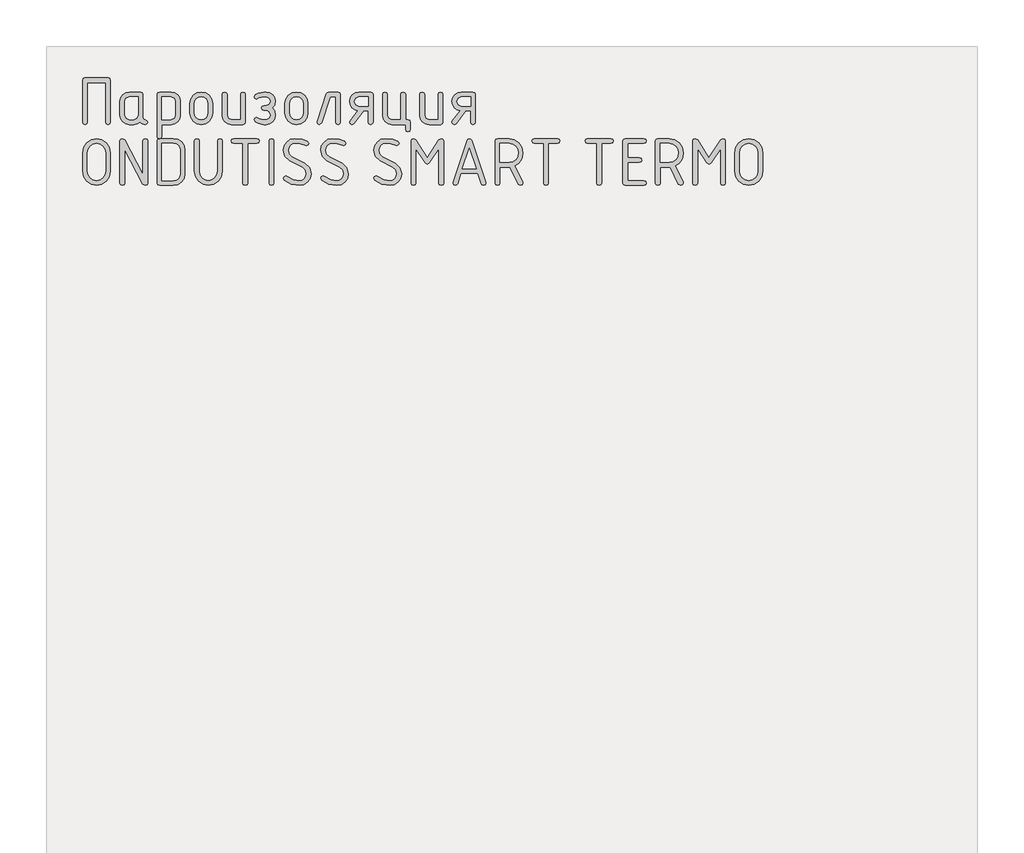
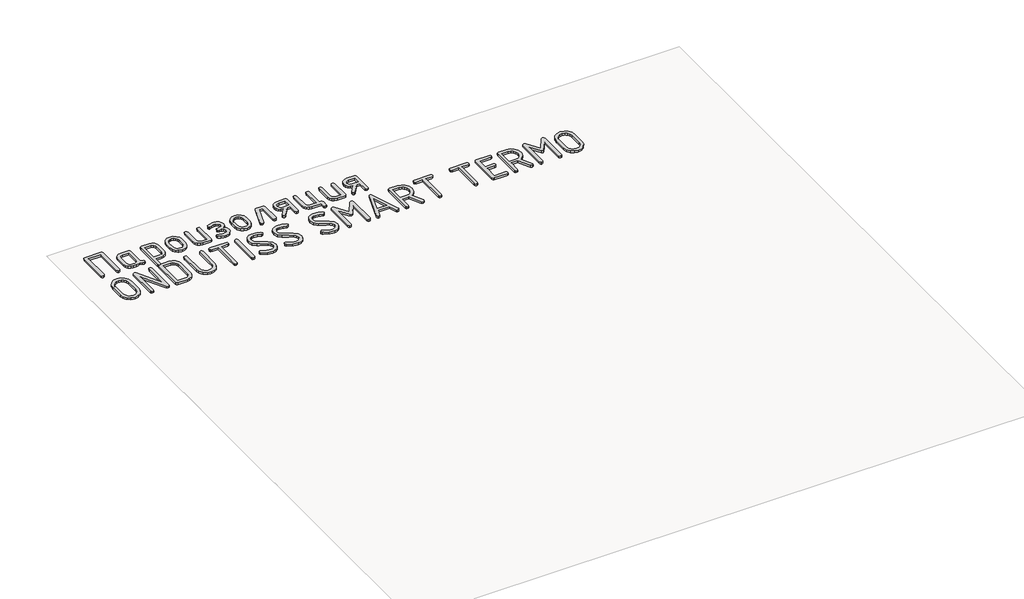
# One storey, part 28 of 42: 1 proxy.
"""IFC4 building model written with IfcOpenShell, lengths in millimetres."""

from ifc_helpers import new_model, si_unit, origin, origin_with_axes, place, context, project, spatial, polyline, outline, extrude, element, save

model = new_model("IFC4")

# Units and contexts
model_context = context("Model", 3, world=origin())
ifc_project = project(units=[si_unit("LENGTHUNIT", "METRE", prefix="MILLI")], contexts=[model_context])

# Site, building, storey
site = spatial("IfcSite", under=ifc_project)
building = spatial("IfcBuilding", under=site)
storey = spatial("IfcBuildingStorey", under=building, Name="Этаж 01", Elevation=0.0)

# Proxy
placement = place(None, origin())
element("IfcBuildingElementProxy", 1, Name="150 мм GOST Common", ObjectType="150 мм GOST Common", at=placement, inside=storey, context=model_context, shape_type="SweptSolid", body=[
    extrude(outline(polyline([(-10713.0545046, -30675.913887), (-10638.5048151, -30675.913887), (-10632.9016029, -30677.8016002), (-10631.0338655, -30683.4647398), (-10631.0338655, -30819.2202837), (-10632.9515424, -30824.8834233), (-10638.7045731, -30826.7711365), (-10644.4576038, -30824.8934112), (-10646.3752807, -30819.2602353), (-10646.3752807, -30691.2553022), (-10705.184039, -30691.2553022), (-10705.184039, -30819.2602353), (-10707.1017159, -30824.8934112), (-10712.8547466, -30826.7711365), (-10718.6077773, -30824.8834233), (-10720.5254542, -30819.2202837), (-10720.5254542, -30683.4647398), (-10718.6577168, -30677.8016002), (-10713.0545046, -30675.913887)])), origin_with_axes(), (0.0, 0.0, 1.0), 10.0),
    extrude(outline(polyline([(-10511.2190109, -30819.3001869), (-10513.0867483, -30824.9033991), (-10518.6899605, -30826.7711365), (-10528.1684781, -30824.7835443), (-10535.7492945, -30818.8207677), (-10544.8682477, -30824.7835443), (-10555.8449504, -30826.7711365), (-10570.7069464, -30826.7711365), (-10582.2030199, -30824.6037621), (-10591.7614407, -30818.1016388), (-10598.2036365, -30808.443339), (-10600.3510351, -30796.8074349), (-10600.3510351, -30751.9018342), (-10598.2036365, -30740.2659301), (-10591.7614407, -30730.6076303), (-10582.2030199, -30724.105507), (-10570.7069464, -30721.9381326), (-10533.6318596, -30721.9381326), (-10528.0586111, -30723.80587), (-10526.2008617, -30729.4090822), (-10526.2008617, -30804.3183361), (-10524.3281303, -30809.9215483), (-10518.7099363, -30811.7892857), (-10513.0917422, -30813.667011), (-10511.2190109, -30819.3001869)]), holes=[polyline([(-10541.5422768, -30737.2795478), (-10570.5071884, -30737.2795478), (-10580.7747501, -30741.6142966), (-10585.0096199, -30752.1015922), (-10585.0096199, -30796.6076769), (-10580.7347985, -30807.0550209), (-10570.5071884, -30811.4297213), (-10556.0447084, -30811.4297213), (-10545.7771467, -30807.0949725), (-10541.5422768, -30796.6076769), (-10541.5422768, -30737.2795478)])]), origin_with_axes(), (0.0, 0.0, 1.0), 10.0),
    extrude(outline(polyline([(-10480.1766161, -30729.4889854), (-10478.3188666, -30723.8258458), (-10472.7456181, -30721.9381326), (-10435.6705313, -30721.9381326), (-10424.1744578, -30724.105507), (-10414.6160371, -30730.6076303), (-10408.1738412, -30740.2659301), (-10406.0264426, -30751.9018342), (-10406.0264426, -30796.8074349), (-10408.1588594, -30808.3684298), (-10414.5561096, -30818.0417114), (-10424.0396212, -30824.5887802), (-10435.4308217, -30826.7711365), (-10464.8352009, -30826.7711365), (-10464.8352009, -30865.1246745), (-10466.7528778, -30870.8777052), (-10472.5059085, -30872.7953821), (-10478.2589392, -30870.9076689), (-10480.1766161, -30865.2445293), (-10480.1766161, -30729.4889854)]), holes=[polyline([(-10464.8352009, -30737.2795478), (-10464.8352009, -30811.4297213), (-10435.8702894, -30811.4297213), (-10425.6027276, -30807.0949725), (-10421.3678578, -30796.6076769), (-10421.3678578, -30752.1015922), (-10425.5428002, -30741.5543692), (-10435.8702894, -30737.2795478), (-10464.8352009, -30737.2795478)])]), origin_with_axes(), (0.0, 0.0, 1.0), 10.0),
    extrude(outline(polyline([(-10375.3436122, -30789.3364853), (-10375.3436122, -30759.3727838), (-10372.6318972, -30744.9802191), (-10364.4967522, -30732.8848716), (-10352.5162656, -30724.6748174), (-10338.2685255, -30721.9381326), (-10323.8709669, -30724.6448537), (-10311.9204439, -30732.7650168), (-10303.87519, -30744.8304006), (-10301.1934388, -30759.3727838), (-10301.1934388, -30789.3364853), (-10303.9051537, -30803.72905), (-10312.0402987, -30815.8243975), (-10324.0207854, -30824.0344517), (-10338.2685255, -30826.7711365), (-10352.5162656, -30824.0344517), (-10364.4967522, -30815.8243975), (-10372.6318972, -30803.72905), (-10375.3436122, -30789.3364853)]), holes=[polyline([(-10316.534854, -30788.8970177), (-10316.534854, -30758.8933645), (-10318.1279241, -30750.2638185), (-10322.9071345, -30742.9926269), (-10329.9336225, -30738.0486162), (-10338.2685255, -30736.4006126), (-10346.6034285, -30738.0486162), (-10353.6299165, -30742.9926269), (-10358.4091269, -30750.2638185), (-10360.002197, -30758.8933645), (-10360.002197, -30788.8970177), (-10358.4241087, -30797.606467), (-10353.6898439, -30804.8776585), (-10346.6783377, -30809.7917056), (-10338.2685255, -30811.4297213), (-10329.9336225, -30809.7817177), (-10322.9071345, -30804.8377069), (-10318.1279241, -30797.5565275), (-10316.534854, -30788.8970177)])]), origin_with_axes(), (0.0, 0.0, 1.0), 10.0),
    extrude(outline(polyline([(-10196.3604349, -30729.4090822), (-10196.3604349, -30819.3001869), (-10198.2181844, -30824.9033991), (-10203.7914329, -30826.7711365), (-10240.8665196, -30826.7711365), (-10252.3625931, -30824.6037621), (-10261.9210139, -30818.1016388), (-10268.3632097, -30808.443339), (-10270.5106084, -30796.8074349), (-10270.5106084, -30729.4090822), (-10268.5929315, -30723.80587), (-10262.8399008, -30721.9381326), (-10257.0868701, -30723.80587), (-10255.1691932, -30729.4090822), (-10255.1691932, -30796.5277737), (-10250.8943717, -30807.0150692), (-10240.6667616, -30811.4297213), (-10211.7018501, -30811.4297213), (-10211.7018501, -30729.4090822), (-10209.7841732, -30723.80587), (-10204.0311425, -30721.9381326), (-10198.2781118, -30723.80587), (-10196.3604349, -30729.4090822)])), origin_with_axes(), (0.0, 0.0, 1.0), 10.0),
    extrude(outline(polyline([(-10114.5395539, -30796.0483545), (-10118.5347141, -30784.7020995), (-10127.4039697, -30780.7468909), (-10137.0722574, -30780.7468909), (-10142.3858205, -30778.5495528), (-10144.543207, -30773.1161349), (-10142.3258931, -30767.6627412), (-10134.9148709, -30765.4054757), (-10132.6376296, -30765.4054757), (-10130.2405335, -30765.4054757), (-10118.5746657, -30761.3503881), (-10114.5395539, -30751.3425118), (-10118.8743027, -30741.3346354), (-10129.5613562, -30737.2795478), (-10137.0722574, -30737.2795478), (-10152.4536242, -30741.0949258), (-10161.3628315, -30744.9103038), (-10165.3579917, -30742.1736191), (-10167.0759106, -30736.9199834), (-10163.9996372, -30731.1769406), (-10154.7708171, -30726.013196), (-10137.0722574, -30721.9381326), (-10129.5613562, -30721.9381326), (-10117.8755126, -30724.0555675), (-10108.0673943, -30730.4078723), (-10101.4154526, -30739.8264625), (-10099.1981387, -30751.1427537), (-10101.8449323, -30764.4366493), (-10109.7853132, -30773.0761833), (-10101.8449323, -30782.2650518), (-10099.1981387, -30796.0883061), (-10101.4154526, -30807.9888895), (-10108.0673943, -30817.881905), (-10117.8755126, -30824.5488286), (-10129.5613562, -30826.7711365), (-10137.0722574, -30826.7711365), (-10154.8906719, -30822.8159279), (-10164.0296009, -30817.7420744), (-10167.0759106, -30811.7892857), (-10165.3579917, -30806.5156742), (-10161.2429767, -30803.7989653), (-10152.1140356, -30807.6143433), (-10137.0722574, -30811.4297213), (-10129.5613562, -30811.4297213), (-10118.9142543, -30806.935166), (-10114.5395539, -30796.0483545)])), origin_with_axes(), (0.0, 0.0, 1.0), 10.0),
    extrude(outline(polyline([(-10068.5153083, -30789.3364853), (-10068.5153083, -30759.3727838), (-10065.8035933, -30744.9802191), (-10057.6684483, -30732.8848716), (-10045.6879616, -30724.6748174), (-10031.4402215, -30721.9381326), (-10017.0426629, -30724.6448537), (-10005.09214, -30732.7650168), (-9997.0468861, -30744.8304006), (-9994.3651348, -30759.3727838), (-9994.3651348, -30789.3364853), (-9997.0768498, -30803.72905), (-10005.2119948, -30815.8243975), (-10017.1924814, -30824.0344517), (-10031.4402215, -30826.7711365), (-10045.6879616, -30824.0344517), (-10057.6684483, -30815.8243975), (-10065.8035933, -30803.72905), (-10068.5153083, -30789.3364853)]), holes=[polyline([(-10009.70655, -30788.8970177), (-10009.70655, -30758.8933645), (-10011.2996201, -30750.2638185), (-10016.0788305, -30742.9926269), (-10023.1053185, -30738.0486162), (-10031.4402215, -30736.4006126), (-10039.7751245, -30738.0486162), (-10046.8016125, -30742.9926269), (-10051.5808229, -30750.2638185), (-10053.1738931, -30758.8933645), (-10053.1738931, -30788.8970177), (-10051.5958048, -30797.606467), (-10046.8615399, -30804.8776585), (-10039.8500338, -30809.7917056), (-10031.4402215, -30811.4297213), (-10023.1053185, -30809.7817177), (-10016.0788305, -30804.8377069), (-10011.2996201, -30797.5565275), (-10009.70655, -30788.8970177)])]), origin_with_axes(), (0.0, 0.0, 1.0), 10.0),
    extrude(outline(polyline([(-9927.3662981, -30721.9381326), (-9897.2028386, -30721.9381326), (-9891.4498079, -30723.80587), (-9889.532131, -30729.4090822), (-9889.532131, -30819.3001869), (-9891.4498079, -30824.9033991), (-9897.2028386, -30826.7711365), (-9902.9558693, -30824.9033991), (-9904.8735462, -30819.3001869), (-9904.8735462, -30737.2795478), (-9922.0127834, -30737.2795478), (-9950.2985177, -30821.697283), (-9957.3699513, -30826.7711365), (-9963.0031272, -30824.8734354), (-9964.8808525, -30819.1803321), (-9964.5212881, -30816.9030908), (-9934.8771993, -30728.0507277), (-9931.9607324, -30723.4662814), (-9927.3662981, -30721.9381326)])), origin_with_axes(), (0.0, 0.0, 1.0), 10.0),
    extrude(outline(polyline([(-9833.3202268, -30781.6258261), (-9843.9024074, -30778.5046072), (-9852.47702, -30771.8576594), (-9858.1551415, -30762.663797), (-9860.0478486, -30751.9018342), (-9857.8704863, -30740.2659301), (-9851.3383994, -30730.6076303), (-9841.6601238, -30724.105507), (-9830.0441955, -30721.9381326), (-9792.3698347, -30721.9381326), (-9786.616804, -30723.80587), (-9784.6991271, -30729.4090822), (-9784.6991271, -30819.3001869), (-9786.616804, -30824.9033991), (-9792.3698347, -30826.7711365), (-9798.1228654, -30824.8934112), (-9800.0405423, -30819.2602353), (-9800.0405423, -30781.7856325), (-9815.2621027, -30781.7856325), (-9846.5042555, -30823.6948631), (-9852.5369474, -30826.7711365), (-9858.1701233, -30824.9033991), (-9860.0478486, -30819.3001869), (-9858.5696393, -30814.7457043), (-9833.3202268, -30781.6258261)]), holes=[polyline([(-9845.0260462, -30752.3013502), (-9840.5914184, -30762.8485732), (-9830.0441955, -30767.283201), (-9800.0405423, -30767.283201), (-9800.0405423, -30737.2795478), (-9830.0441955, -30737.2795478), (-9840.6513458, -30741.6542483), (-9845.0260462, -30752.3013502)])]), origin_with_axes(), (0.0, 0.0, 1.0), 10.0),
    extrude(outline(polyline([(-9672.1954157, -30811.4297213), (-9666.442385, -30813.3473982), (-9664.5247081, -30819.1004289), (-9664.5247081, -30842.1125517), (-9666.442385, -30847.8655824), (-9672.1954157, -30849.7832593), (-9677.9484464, -30847.8655824), (-9679.8661233, -30842.1125517), (-9679.8661233, -30826.7711365), (-9724.372208, -30826.7711365), (-9735.8682815, -30824.5887802), (-9745.4267023, -30818.0417114), (-9751.8688981, -30808.3684298), (-9754.0162967, -30796.8074349), (-9754.0162967, -30729.4090822), (-9752.0986198, -30723.80587), (-9746.3455891, -30721.9381326), (-9740.5925584, -30723.80587), (-9738.6748815, -30729.4090822), (-9738.6748815, -30796.5277737), (-9734.4000601, -30807.0150692), (-9724.17245, -30811.4297213), (-9695.2075385, -30811.4297213), (-9695.2075385, -30729.4090822), (-9693.2898616, -30723.80587), (-9687.5368309, -30721.9381326), (-9681.7838002, -30723.80587), (-9679.8661233, -30729.4090822), (-9679.8661233, -30811.4297213), (-9672.1954157, -30811.4297213)])), origin_with_axes(), (0.0, 0.0, 1.0), 10.0),
    extrude(outline(polyline([(-9559.6917042, -30729.4090822), (-9559.6917042, -30819.3001869), (-9561.5494537, -30824.9033991), (-9567.1227022, -30826.7711365), (-9604.1977889, -30826.7711365), (-9615.6938624, -30824.6037621), (-9625.2522832, -30818.1016388), (-9631.6944791, -30808.443339), (-9633.8418777, -30796.8074349), (-9633.8418777, -30729.4090822), (-9631.9242008, -30723.80587), (-9626.1711701, -30721.9381326), (-9620.4181394, -30723.80587), (-9618.5004625, -30729.4090822), (-9618.5004625, -30796.5277737), (-9614.225641, -30807.0150692), (-9603.9980309, -30811.4297213), (-9575.0331194, -30811.4297213), (-9575.0331194, -30729.4090822), (-9573.1154425, -30723.80587), (-9567.3624118, -30721.9381326), (-9561.6093811, -30723.80587), (-9559.6917042, -30729.4090822)])), origin_with_axes(), (0.0, 0.0, 1.0), 10.0),
    extrude(outline(polyline([(-9503.4798001, -30781.6258261), (-9514.0619807, -30778.5046072), (-9522.6365933, -30771.8576594), (-9528.3147147, -30762.663797), (-9530.2074219, -30751.9018342), (-9528.0300596, -30740.2659301), (-9521.4979726, -30730.6076303), (-9511.819697, -30724.105507), (-9500.2037687, -30721.9381326), (-9462.529408, -30721.9381326), (-9456.7763773, -30723.80587), (-9454.8587004, -30729.4090822), (-9454.8587004, -30819.3001869), (-9456.7763773, -30824.9033991), (-9462.529408, -30826.7711365), (-9468.2824387, -30824.8934112), (-9470.2001156, -30819.2602353), (-9470.2001156, -30781.7856325), (-9485.4216759, -30781.7856325), (-9516.6638288, -30823.6948631), (-9522.6965207, -30826.7711365), (-9528.3296966, -30824.9033991), (-9530.2074219, -30819.3001869), (-9528.7292126, -30814.7457043), (-9503.4798001, -30781.6258261)]), holes=[polyline([(-9515.1856195, -30752.3013502), (-9510.7509917, -30762.8485732), (-9500.2037687, -30767.283201), (-9470.2001156, -30767.283201), (-9470.2001156, -30737.2795478), (-9500.2037687, -30737.2795478), (-9510.8109191, -30741.6542483), (-9515.1856195, -30752.3013502)])]), origin_with_axes(), (0.0, 0.0, 1.0), 10.0),
    extrude(outline(polyline([(-10631.0338655, -30977.5302169), (-10634.3098969, -30994.8991759), (-10644.137991, -31009.5314502), (-10658.6004709, -31019.4793991), (-10675.7796598, -31022.7953821), (-10692.9588487, -31019.4793991), (-10707.4213287, -31009.5314502), (-10717.2494228, -30994.8991759), (-10720.5254542, -30977.5302169), (-10720.5254542, -30917.2032978), (-10717.2494228, -30899.8343388), (-10707.4213287, -30885.2020645), (-10692.9588487, -30875.2541156), (-10675.7796598, -30871.9381326), (-10658.5255617, -30875.2391337), (-10644.0780636, -30885.1421371), (-10634.294915, -30899.7594295), (-10631.0338655, -30917.2032978), (-10631.0338655, -30977.5302169)]), holes=[polyline([(-10646.3752807, -30977.4103621), (-10646.3752807, -30917.3231526), (-10648.5076975, -30905.6772606), (-10654.9049477, -30895.9889971), (-10664.3884593, -30889.4569101), (-10675.7796598, -30887.2795478), (-10687.1708604, -30889.4569101), (-10696.6543719, -30895.9889971), (-10703.0516222, -30905.6772606), (-10705.184039, -30917.3231526), (-10705.184039, -30977.4103621), (-10703.0516222, -30989.0562541), (-10696.6543719, -30998.7445176), (-10687.1708604, -31005.2766046), (-10675.7796598, -31007.4539669), (-10664.3884593, -31005.2766046), (-10654.9049477, -30998.7445176), (-10648.5076975, -30989.0562541), (-10646.3752807, -30977.4103621)])]), origin_with_axes(), (0.0, 0.0, 1.0), 10.0),
    extrude(outline(polyline([(-10526.2008617, -30986.1198114), (-10526.2008617, -30879.4889854), (-10524.2831848, -30873.8258458), (-10518.5301541, -30871.9381326), (-10512.7771234, -30873.8258458), (-10510.8594465, -30879.4889854), (-10510.8594465, -31015.2445293), (-10512.8969782, -31020.9076689), (-10519.0095733, -31022.7953821), (-10526.2008617, -31019.0399315), (-10585.0096199, -30908.4938485), (-10585.0096199, -31015.2445293), (-10586.9272968, -31020.9076689), (-10592.6803275, -31022.7953821), (-10598.4333582, -31020.9076689), (-10600.3510351, -31015.2445293), (-10600.3510351, -30879.4889854), (-10598.353455, -30873.8258458), (-10592.3607147, -30871.9381326), (-10585.0096199, -30876.4127121), (-10526.2008617, -30986.1198114)])), origin_with_axes(), (0.0, 0.0, 1.0), 10.0),
    extrude(outline(polyline([(-10480.1766161, -30879.4889854), (-10478.3088787, -30873.8258458), (-10472.7056665, -30871.9381326), (-10427.9598721, -30871.9381326), (-10413.4874043, -30874.6648295), (-10401.47196, -30882.84492), (-10393.3817605, -30895.0001949), (-10390.6850274, -30909.652445), (-10390.6850274, -30985.0810697), (-10393.4117242, -30999.5835013), (-10401.5918148, -31011.7687399), (-10413.6372228, -31020.0387215), (-10427.9598721, -31022.7953821), (-10472.7056665, -31022.7953821), (-10478.3088787, -31020.9076689), (-10480.1766161, -31015.2445293), (-10480.1766161, -30879.4889854)]), holes=[polyline([(-10464.8352009, -30887.2795478), (-10464.8352009, -31007.4539669), (-10428.079727, -31007.4539669), (-10419.6049934, -31005.8059633), (-10412.4786263, -31000.8619525), (-10407.6394885, -30993.580773), (-10406.0264426, -30984.9212633), (-10406.0264426, -30909.8122514), (-10407.6394885, -30901.1527416), (-10412.4786263, -30893.8715622), (-10419.6049934, -30888.9275514), (-10428.079727, -30887.2795478), (-10464.8352009, -30887.2795478)])]), origin_with_axes(), (0.0, 0.0, 1.0), 10.0),
    extrude(outline(polyline([(-10270.5106084, -30879.4889854), (-10270.5106084, -30977.5302169), (-10273.7866397, -30994.8991759), (-10283.6147338, -31009.5314502), (-10298.0772138, -31019.4793991), (-10315.2564027, -31022.7953821), (-10332.4355916, -31019.4793991), (-10346.8980715, -31009.5314502), (-10356.7261656, -30994.8991759), (-10360.002197, -30977.5302169), (-10360.002197, -30879.4889854), (-10358.0845201, -30873.8258458), (-10352.3314894, -30871.9381326), (-10346.5784587, -30873.8158579), (-10344.6607818, -30879.4490338), (-10344.6607818, -30977.3304589), (-10342.5283651, -30989.0113086), (-10336.1311148, -30998.7245418), (-10326.6476032, -31005.2716106), (-10315.2564027, -31007.4539669), (-10303.8652021, -31005.2716106), (-10294.3816906, -30998.7245418), (-10287.9844403, -30989.0113086), (-10285.8520236, -30977.3304589), (-10285.8520236, -30879.4490338), (-10283.9343467, -30873.8158579), (-10278.181316, -30871.9381326), (-10272.4282853, -30873.8258458), (-10270.5106084, -30879.4889854)])), origin_with_axes(), (0.0, 0.0, 1.0), 10.0),
    extrude(outline(polyline([(-10241.5456969, -30879.6088402), (-10239.6679716, -30873.8558095), (-10234.0347957, -30871.9381326), (-10158.6860741, -30871.9381326), (-10153.082862, -30873.8558095), (-10151.2151246, -30879.6088402), (-10153.082862, -30885.3618709), (-10158.6860741, -30887.2795478), (-10188.6897273, -30887.2795478), (-10188.6897273, -31015.2844809), (-10190.6074042, -31020.9176568), (-10196.3604349, -31022.7953821), (-10202.1134656, -31020.9176568), (-10204.0311425, -31015.2844809), (-10204.0311425, -30887.2795478), (-10234.0347957, -30887.2795478), (-10239.6679716, -30885.3618709), (-10241.5456969, -30879.6088402)])), origin_with_axes(), (0.0, 0.0, 1.0), 10.0),
    extrude(outline(polyline([(-10111.9826513, -31022.7953821), (-10117.735682, -31020.9076689), (-10119.6533589, -31015.2445293), (-10119.6533589, -30879.4889854), (-10117.735682, -30873.8258458), (-10111.9826513, -30871.9381326), (-10106.2296206, -30873.8258458), (-10104.3119437, -30879.4889854), (-10104.3119437, -31015.2445293), (-10106.2296206, -31020.9076689), (-10111.9826513, -31022.7953821)])), origin_with_axes(), (0.0, 0.0, 1.0), 10.0),
    extrude(outline(polyline([(-9984.1375247, -30985.1609729), (-9986.8792034, -30999.5535376), (-9995.1042394, -31011.7287883), (-10007.1646293, -31020.0287336), (-10021.4123694, -31022.7953821), (-10047.4308503, -31018.6104518), (-10070.353082, -31006.0556608), (-10073.6291133, -30999.9430657), (-10071.4317752, -30994.6494784), (-10066.1981153, -30992.4321645), (-10061.9632455, -30993.790519), (-10041.5080253, -31004.2578387), (-10021.7319822, -31007.4539669), (-10013.1823394, -31005.8009693), (-10005.991051, -31000.8419767), (-10001.1069677, -30993.5458154), (-9999.4789399, -30984.8813117), (-10002.5652011, -30972.9158069), (-10011.8239849, -30964.665801), (-10053.5334575, -30943.0120327), (-10068.6051994, -30929.3985243), (-10073.6291133, -30909.5725418), (-10070.9024165, -30895.1799771), (-10062.722326, -30883.0047264), (-10050.7268574, -30874.7047811), (-10036.5540266, -30871.9381326), (-10013.3721095, -30874.0256038), (-9996.4026665, -30880.2880175), (-9991.9680387, -30887.2795478), (-9994.1853526, -30892.5731351), (-9999.4789399, -30894.790449), (-10002.5951648, -30893.991417), (-10019.4747167, -30888.9575151), (-10036.2344138, -30887.2795478), (-10044.7091474, -30888.9325454), (-10051.8355144, -30893.891538), (-10056.6746522, -30901.1876993), (-10058.2876981, -30909.852203), (-10055.2513764, -30921.7877441), (-10046.1424111, -30929.9478588), (-10004.4728901, -30951.6016272), (-9989.221366, -30965.3050267), (-9984.1375247, -30985.1609729)])), origin_with_axes(), (0.0, 0.0, 1.0), 10.0),
    extrude(outline(polyline([(-9863.9631056, -30985.1609729), (-9866.7047843, -30999.5535376), (-9874.9298204, -31011.7287883), (-9886.9902103, -31020.0287336), (-9901.2379504, -31022.7953821), (-9927.2564312, -31018.6104518), (-9950.1786629, -31006.0556608), (-9953.4546943, -30999.9430657), (-9951.2573562, -30994.6494784), (-9946.0236963, -30992.4321645), (-9941.7888265, -30993.790519), (-9921.3336062, -31004.2578387), (-9901.5575632, -31007.4539669), (-9893.0079203, -31005.8009693), (-9885.816632, -31000.8419767), (-9880.9325486, -30993.5458154), (-9879.3045208, -30984.8813117), (-9882.3907821, -30972.9158069), (-9891.6495659, -30964.665801), (-9933.3590384, -30943.0120327), (-9948.4307803, -30929.3985243), (-9953.4546943, -30909.5725418), (-9950.7279974, -30895.1799771), (-9942.5479069, -30883.0047264), (-9930.5524384, -30874.7047811), (-9916.3796075, -30871.9381326), (-9893.1976904, -30874.0256038), (-9876.2282475, -30880.2880175), (-9871.7936196, -30887.2795478), (-9874.0109335, -30892.5731351), (-9879.3045208, -30894.790449), (-9882.4207458, -30893.991417), (-9899.3002977, -30888.9575151), (-9916.0599947, -30887.2795478), (-9924.5347283, -30888.9325454), (-9931.6610953, -30893.891538), (-9936.5002331, -30901.1876993), (-9938.1132791, -30909.852203), (-9935.0769573, -30921.7877441), (-9925.967992, -30929.9478588), (-9884.2984711, -30951.6016272), (-9869.046947, -30965.3050267), (-9863.9631056, -30985.1609729)])), origin_with_axes(), (0.0, 0.0, 1.0), 10.0),
    extrude(outline(polyline([(-9692.6506359, -30985.1609729), (-9695.3923146, -30999.5535376), (-9703.6173507, -31011.7287883), (-9715.6777406, -31020.0287336), (-9729.9254807, -31022.7953821), (-9755.9439615, -31018.6104518), (-9778.8661932, -31006.0556608), (-9782.1422246, -30999.9430657), (-9779.9448865, -30994.6494784), (-9774.7112266, -30992.4321645), (-9770.4763568, -30993.790519), (-9750.0211365, -31004.2578387), (-9730.2450935, -31007.4539669), (-9721.6954506, -31005.8009693), (-9714.5041623, -31000.8419767), (-9709.6200789, -30993.5458154), (-9707.9920511, -30984.8813117), (-9711.0783124, -30972.9158069), (-9720.3370962, -30964.665801), (-9762.0465687, -30943.0120327), (-9777.1183106, -30929.3985243), (-9782.1422246, -30909.5725418), (-9779.4155277, -30895.1799771), (-9771.2354372, -30883.0047264), (-9759.2399687, -30874.7047811), (-9745.0671378, -30871.9381326), (-9721.8852207, -30874.0256038), (-9704.9157778, -30880.2880175), (-9700.4811499, -30887.2795478), (-9702.6984638, -30892.5731351), (-9707.9920511, -30894.790449), (-9711.1082761, -30893.991417), (-9727.987828, -30888.9575151), (-9744.747525, -30887.2795478), (-9753.2222586, -30888.9325454), (-9760.3486256, -30893.891538), (-9765.1877634, -30901.1876993), (-9766.8008094, -30909.852203), (-9763.7644876, -30921.7877441), (-9754.6555223, -30929.9478588), (-9712.9860014, -30951.6016272), (-9697.7344773, -30965.3050267), (-9692.6506359, -30985.1609729)])), origin_with_axes(), (0.0, 0.0, 1.0), 10.0),
    extrude(outline(polyline([(-9565.4447349, -30871.9381326), (-9559.212285, -30873.8258458), (-9557.1348017, -30879.4889854), (-9557.1348017, -31015.2445293), (-9559.0524786, -31020.9076689), (-9564.8055093, -31022.7953821), (-9570.55854, -31020.9076689), (-9572.4762169, -31015.2445293), (-9572.4762169, -30904.2989303), (-9602.679628, -30950.1234179), (-9609.5513036, -30954.6379489), (-9616.5028824, -30950.1234179), (-9646.6263903, -30904.2989303), (-9646.6263903, -31015.2445293), (-9648.5440672, -31020.9076689), (-9654.2970979, -31022.7953821), (-9660.0501286, -31020.9076689), (-9661.9678055, -31015.2445293), (-9661.9678055, -30879.4889854), (-9659.9302738, -30873.8258458), (-9653.8176787, -30871.9381326), (-9646.6263903, -30875.6935832), (-9609.6711584, -30933.6633578), (-9572.4762169, -30875.2541156), (-9565.4447349, -30871.9381326)])), origin_with_axes(), (0.0, 0.0, 1.0), 10.0),
    extrude(outline(polyline([(-9421.7787738, -31015.2445293), (-9423.6564991, -31020.9076689), (-9429.289675, -31022.7953821), (-9433.814194, -31021.4869671), (-9436.4410118, -31017.5617222), (-9447.2279444, -30984.4418441), (-9501.3224136, -30984.4418441), (-9512.1492977, -31017.5617222), (-9514.7761156, -31021.4869671), (-9519.3006345, -31022.7953821), (-9524.9338104, -31020.9076689), (-9526.8115357, -31015.2445293), (-9526.4519713, -31012.8474332), (-9481.7860802, -30878.0107761), (-9478.889589, -30873.4562935), (-9474.275179, -30871.9381326), (-9469.7206963, -30873.3963661), (-9466.9240842, -30877.7710665), (-9422.1383383, -31012.8474332), (-9421.7787738, -31015.2445293)]), holes=[polyline([(-9474.275179, -30902.9405758), (-9496.3284633, -30969.1004289), (-9452.2618462, -30969.1004289), (-9474.275179, -30902.9405758)])]), origin_with_axes(), (0.0, 0.0, 1.0), 10.0),
    extrude(outline(polyline([(-9327.6128477, -30959.2723348), (-9301.4445484, -31011.8086915), (-9301.4445484, -31015.2445293), (-9303.8815961, -31020.5181407), (-9309.4748204, -31022.7953821), (-9316.7859636, -31018.6803671), (-9343.8731498, -30963.866769), (-9346.5099555, -30963.9866238), (-9375.5947218, -30963.9866238), (-9375.5947218, -31015.4442873), (-9377.5123987, -31020.9576084), (-9383.2654294, -31022.7953821), (-9389.0184601, -31020.9076689), (-9390.936137, -31015.2445293), (-9390.936137, -30879.4889854), (-9389.0683996, -30873.8258458), (-9383.4651874, -30871.9381326), (-9346.1903427, -30871.9381326), (-9328.9362446, -30875.2391337), (-9314.4887465, -30885.1421371), (-9304.7055979, -30899.7594295), (-9301.4445484, -30917.2032978), (-9303.0800671, -30931.533438), (-9307.9866232, -30943.3216576), (-9316.1642168, -30952.5679565), (-9327.6128477, -30959.2723348)]), holes=[polyline([(-9375.5947218, -30887.2795478), (-9375.5947218, -30948.6452086), (-9346.1903427, -30948.6452086), (-9334.7991422, -30946.4229007), (-9325.3156306, -30939.7559772), (-9318.9183803, -30929.8629617), (-9316.7859636, -30917.9623782), (-9318.9183803, -30906.0617947), (-9325.3156306, -30896.1687793), (-9334.7991422, -30889.5018557), (-9346.1903427, -30887.2795478), (-9375.5947218, -30887.2795478)])]), origin_with_axes(), (0.0, 0.0, 1.0), 10.0),
    extrude(outline(polyline([(-9272.4796369, -30879.6088402), (-9270.6019116, -30873.8558095), (-9264.9687357, -30871.9381326), (-9189.6200142, -30871.9381326), (-9184.016802, -30873.8558095), (-9182.1490646, -30879.6088402), (-9184.016802, -30885.3618709), (-9189.6200142, -30887.2795478), (-9219.6236673, -30887.2795478), (-9219.6236673, -31015.2844809), (-9221.5413442, -31020.9176568), (-9227.2943749, -31022.7953821), (-9233.0474056, -31020.9176568), (-9234.9650825, -31015.2844809), (-9234.9650825, -30887.2795478), (-9264.9687357, -30887.2795478), (-9270.6019116, -30885.3618709), (-9272.4796369, -30879.6088402)])), origin_with_axes(), (0.0, 0.0, 1.0), 10.0),
    extrude(outline(polyline([(-9101.1671672, -30879.6088402), (-9099.2894419, -30873.8558095), (-9093.656266, -30871.9381326), (-9018.3075445, -30871.9381326), (-9012.7043323, -30873.8558095), (-9010.8365949, -30879.6088402), (-9012.7043323, -30885.3618709), (-9018.3075445, -30887.2795478), (-9048.3111976, -30887.2795478), (-9048.3111976, -31015.2844809), (-9050.2288745, -31020.9176568), (-9055.9819052, -31022.7953821), (-9061.7349359, -31020.9176568), (-9063.6526128, -31015.2844809), (-9063.6526128, -30887.2795478), (-9093.656266, -30887.2795478), (-9099.2894419, -30885.3618709), (-9101.1671672, -30879.6088402)])), origin_with_axes(), (0.0, 0.0, 1.0), 10.0),
    extrude(outline(polyline([(-8979.2748292, -31015.2445293), (-8979.2748292, -30879.4889854), (-8977.3571523, -30873.8258458), (-8971.6041216, -30871.9381326), (-8911.4370089, -30871.9381326), (-8905.803833, -30873.8558095), (-8903.9261077, -30879.6088402), (-8905.803833, -30885.3618709), (-8911.4370089, -30887.2795478), (-8963.933414, -30887.2795478), (-8963.933414, -30933.3037934), (-8926.4188597, -30933.3037934), (-8920.8156475, -30935.2214703), (-8918.9479101, -30940.974501), (-8920.8156475, -30946.7275317), (-8926.4188597, -30948.6452086), (-8963.933414, -30948.6452086), (-8963.933414, -31007.4539669), (-8911.4370089, -31007.4539669), (-8905.803833, -31009.3716438), (-8903.9261077, -31015.1246745), (-8905.803833, -31020.8777052), (-8911.4370089, -31022.7953821), (-8971.6041216, -31022.7953821), (-8977.3571523, -31020.9076689), (-8979.2748292, -31015.2445293)])), origin_with_axes(), (0.0, 0.0, 1.0), 10.0),
    extrude(outline(polyline([(-8811.1185361, -30959.2723348), (-8784.9502367, -31011.8086915), (-8784.9502367, -31015.2445293), (-8787.3872845, -31020.5181407), (-8792.9805087, -31022.7953821), (-8800.2916519, -31018.6803671), (-8827.3788381, -30963.866769), (-8830.0156439, -30963.9866238), (-8859.1004102, -30963.9866238), (-8859.1004102, -31015.4442873), (-8861.0180871, -31020.9576084), (-8866.7711178, -31022.7953821), (-8872.5241485, -31020.9076689), (-8874.4418254, -31015.2445293), (-8874.4418254, -30879.4889854), (-8872.574088, -30873.8258458), (-8866.9708758, -30871.9381326), (-8829.6960311, -30871.9381326), (-8812.4419329, -30875.2391337), (-8797.9944348, -30885.1421371), (-8788.2112863, -30899.7594295), (-8784.9502367, -30917.2032978), (-8786.5857554, -30931.533438), (-8791.4923116, -30943.3216576), (-8799.6699051, -30952.5679565), (-8811.1185361, -30959.2723348)]), holes=[polyline([(-8859.1004102, -30887.2795478), (-8859.1004102, -30948.6452086), (-8829.6960311, -30948.6452086), (-8818.3048305, -30946.4229007), (-8808.821319, -30939.7559772), (-8802.4240687, -30929.8629617), (-8800.2916519, -30917.9623782), (-8802.4240687, -30906.0617947), (-8808.821319, -30896.1687793), (-8818.3048305, -30889.5018557), (-8829.6960311, -30887.2795478), (-8859.1004102, -30887.2795478)])]), origin_with_axes(), (0.0, 0.0, 1.0), 10.0),
    extrude(outline(polyline([(-8657.7443357, -30871.9381326), (-8651.5118858, -30873.8258458), (-8649.4344025, -30879.4889854), (-8649.4344025, -31015.2445293), (-8651.3520794, -31020.9076689), (-8657.1051101, -31022.7953821), (-8662.8581408, -31020.9076689), (-8664.7758177, -31015.2445293), (-8664.7758177, -30904.2989303), (-8694.9792289, -30950.1234179), (-8701.8509044, -30954.6379489), (-8708.8024832, -30950.1234179), (-8738.9259911, -30904.2989303), (-8738.9259911, -31015.2445293), (-8740.843668, -31020.9076689), (-8746.5966987, -31022.7953821), (-8752.3497294, -31020.9076689), (-8754.2674063, -31015.2445293), (-8754.2674063, -30879.4889854), (-8752.2298746, -30873.8258458), (-8746.1172795, -30871.9381326), (-8738.9259911, -30875.6935832), (-8701.9707592, -30933.6633578), (-8664.7758177, -30875.2541156), (-8657.7443357, -30871.9381326)])), origin_with_axes(), (0.0, 0.0, 1.0), 10.0),
    extrude(outline(polyline([(-8529.2599834, -30977.5302169), (-8532.5360148, -30994.8991759), (-8542.3641089, -31009.5314502), (-8556.8265889, -31019.4793991), (-8574.0057778, -31022.7953821), (-8591.1849667, -31019.4793991), (-8605.6474466, -31009.5314502), (-8615.4755407, -30994.8991759), (-8618.7515721, -30977.5302169), (-8618.7515721, -30917.2032978), (-8615.4755407, -30899.8343388), (-8605.6474466, -30885.2020645), (-8591.1849667, -30875.2541156), (-8574.0057778, -30871.9381326), (-8556.7516796, -30875.2391337), (-8542.3041815, -30885.1421371), (-8532.521033, -30899.7594295), (-8529.2599834, -30917.2032978), (-8529.2599834, -30977.5302169)]), holes=[polyline([(-8544.6013986, -30977.4103621), (-8544.6013986, -30917.3231526), (-8546.7338154, -30905.6772606), (-8553.1310657, -30895.9889971), (-8562.6145772, -30889.4569101), (-8574.0057778, -30887.2795478), (-8585.3969783, -30889.4569101), (-8594.8804899, -30895.9889971), (-8601.2777401, -30905.6772606), (-8603.4101569, -30917.3231526), (-8603.4101569, -30977.4103621), (-8601.2777401, -30989.0562541), (-8594.8804899, -30998.7445176), (-8585.3969783, -31005.2766046), (-8574.0057778, -31007.4539669), (-8562.6145772, -31005.2766046), (-8553.1310657, -30998.7445176), (-8546.7338154, -30989.0562541), (-8544.6013986, -30977.4103621)])]), origin_with_axes(), (0.0, 0.0, 1.0), 10.0),
])

save(model, "model.ifc")
